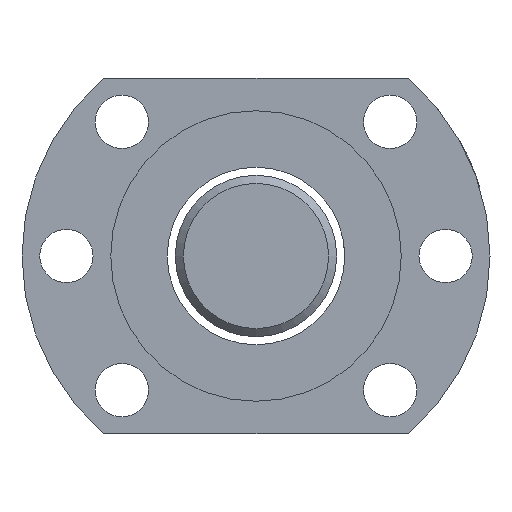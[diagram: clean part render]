
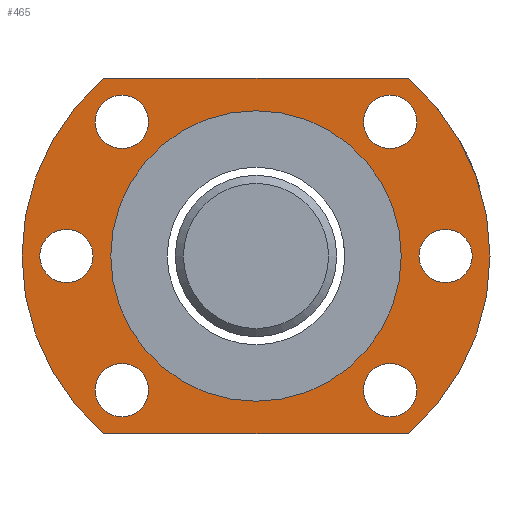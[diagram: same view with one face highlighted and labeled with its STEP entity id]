
A CAD part, left-side view. The second image highlights one B-rep face of the part: STEP entity #465.
In plain terms, the highlighted planar face has unit normal (-1, 0, 0).
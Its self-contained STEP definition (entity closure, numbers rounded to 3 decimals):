
#59=PLANE('',#541);
#75=CIRCLE('',#513,29.);
#80=CIRCLE('',#520,3.3);
#82=CIRCLE('',#523,3.3);
#84=CIRCLE('',#526,3.3);
#86=CIRCLE('',#529,3.3);
#88=CIRCLE('',#532,3.3);
#90=CIRCLE('',#535,3.3);
#92=CIRCLE('',#540,29.);
#93=CIRCLE('',#542,18.);
#140=ORIENTED_EDGE('',*,*,#217,.T.);
#141=ORIENTED_EDGE('',*,*,#221,.T.);
#142=ORIENTED_EDGE('',*,*,#223,.F.);
#143=ORIENTED_EDGE('',*,*,#225,.F.);
#144=ORIENTED_EDGE('',*,*,#227,.F.);
#145=ORIENTED_EDGE('',*,*,#235,.T.);
#146=ORIENTED_EDGE('',*,*,#231,.T.);
#147=ORIENTED_EDGE('',*,*,#208,.T.);
#148=ORIENTED_EDGE('',*,*,#228,.T.);
#149=ORIENTED_EDGE('',*,*,#236,.F.);
#150=ORIENTED_EDGE('',*,*,#219,.T.);
#208=EDGE_CURVE('',#256,#258,#75,.T.);
#217=EDGE_CURVE('',#267,#267,#80,.T.);
#219=EDGE_CURVE('',#269,#269,#82,.T.);
#221=EDGE_CURVE('',#271,#271,#84,.T.);
#223=EDGE_CURVE('',#273,#273,#86,.T.);
#225=EDGE_CURVE('',#275,#275,#88,.T.);
#227=EDGE_CURVE('',#277,#277,#90,.T.);
#228=EDGE_CURVE('',#258,#278,#298,.T.);
#231=EDGE_CURVE('',#280,#256,#301,.T.);
#235=EDGE_CURVE('',#278,#280,#92,.T.);
#236=EDGE_CURVE('',#282,#282,#93,.T.);
#256=VERTEX_POINT('',#712);
#258=VERTEX_POINT('',#716);
#267=VERTEX_POINT('',#755);
#269=VERTEX_POINT('',#760);
#271=VERTEX_POINT('',#765);
#273=VERTEX_POINT('',#770);
#275=VERTEX_POINT('',#775);
#277=VERTEX_POINT('',#780);
#278=VERTEX_POINT('',#783);
#280=VERTEX_POINT('',#789);
#282=VERTEX_POINT('',#798);
#298=LINE('',#782,#306);
#301=LINE('',#788,#309);
#306=VECTOR('',#630,1000.);
#309=VECTOR('',#635,1000.);
#331=EDGE_LOOP('',(#140));
#332=EDGE_LOOP('',(#141));
#333=EDGE_LOOP('',(#142));
#334=EDGE_LOOP('',(#143));
#335=EDGE_LOOP('',(#144));
#336=EDGE_LOOP('',(#145,#146,#147,#148));
#337=EDGE_LOOP('',(#149));
#338=EDGE_LOOP('',(#150));
#394=FACE_BOUND('',#331,.T.);
#395=FACE_BOUND('',#332,.T.);
#396=FACE_BOUND('',#333,.T.);
#397=FACE_BOUND('',#334,.T.);
#398=FACE_BOUND('',#335,.T.);
#399=FACE_BOUND('',#336,.T.);
#400=FACE_BOUND('',#337,.T.);
#401=FACE_BOUND('',#338,.T.);
#465=ADVANCED_FACE('',(#394,#395,#396,#397,#398,#399,#400,#401),#59,.T.);
#513=AXIS2_PLACEMENT_3D('',#717,#582,#583);
#520=AXIS2_PLACEMENT_3D('',#754,#596,#597);
#523=AXIS2_PLACEMENT_3D('',#759,#602,#603);
#526=AXIS2_PLACEMENT_3D('',#764,#608,#609);
#529=AXIS2_PLACEMENT_3D('',#769,#614,#615);
#532=AXIS2_PLACEMENT_3D('',#774,#620,#621);
#535=AXIS2_PLACEMENT_3D('',#779,#626,#627);
#540=AXIS2_PLACEMENT_3D('',#795,#642,#643);
#541=AXIS2_PLACEMENT_3D('',#796,#644,#645);
#542=AXIS2_PLACEMENT_3D('',#797,#646,#647);
#582=DIRECTION('',(-1.,0.,0.));
#583=DIRECTION('',(0.,0.,-1.));
#596=DIRECTION('',(1.,0.,0.));
#597=DIRECTION('',(0.,0.,1.));
#602=DIRECTION('',(1.,0.,0.));
#603=DIRECTION('',(0.,0.,1.));
#608=DIRECTION('',(1.,0.,0.));
#609=DIRECTION('',(0.,0.,1.));
#614=DIRECTION('',(-1.,0.,0.));
#615=DIRECTION('',(0.,0.,1.));
#620=DIRECTION('',(-1.,0.,0.));
#621=DIRECTION('',(0.,0.,1.));
#626=DIRECTION('',(-1.,0.,0.));
#627=DIRECTION('',(0.,0.,1.));
#630=DIRECTION('',(0.,1.,0.));
#635=DIRECTION('',(0.,-1.,0.));
#642=DIRECTION('',(-1.,0.,0.));
#643=DIRECTION('',(0.,0.,-1.));
#644=DIRECTION('',(-1.,0.,0.));
#645=DIRECTION('',(0.,0.,-1.));
#646=DIRECTION('',(-1.,0.,0.));
#647=DIRECTION('',(0.,0.,-1.));
#712=CARTESIAN_POINT('',(-113.948,-56.798,-43.377));
#716=CARTESIAN_POINT('',(-113.948,-56.798,0.623));
#717=CARTESIAN_POINT('',(-113.948,-37.903,-21.377));
#754=CARTESIAN_POINT('',(-113.948,-54.52,-4.76));
#755=CARTESIAN_POINT('',(-113.948,-54.52,-1.46));
#759=CARTESIAN_POINT('',(-113.948,-61.403,-21.377));
#760=CARTESIAN_POINT('',(-113.948,-61.403,-18.077));
#764=CARTESIAN_POINT('',(-113.948,-54.52,-37.994));
#765=CARTESIAN_POINT('',(-113.948,-54.52,-34.694));
#769=CARTESIAN_POINT('',(-113.948,-21.286,-37.994));
#770=CARTESIAN_POINT('',(-113.948,-21.286,-34.694));
#774=CARTESIAN_POINT('',(-113.948,-21.286,-4.76));
#775=CARTESIAN_POINT('',(-113.948,-21.286,-1.46));
#779=CARTESIAN_POINT('',(-113.948,-14.403,-21.377));
#780=CARTESIAN_POINT('',(-113.948,-14.403,-18.077));
#782=CARTESIAN_POINT('',(-113.948,-56.798,0.623));
#783=CARTESIAN_POINT('',(-113.948,-19.009,0.623));
#788=CARTESIAN_POINT('',(-113.948,-19.009,-43.377));
#789=CARTESIAN_POINT('',(-113.948,-19.009,-43.377));
#795=CARTESIAN_POINT('',(-113.948,-37.903,-21.377));
#796=CARTESIAN_POINT('',(-113.948,-37.903,-21.377));
#797=CARTESIAN_POINT('',(-113.948,-37.903,-21.377));
#798=CARTESIAN_POINT('',(-113.948,-37.903,-39.377));
